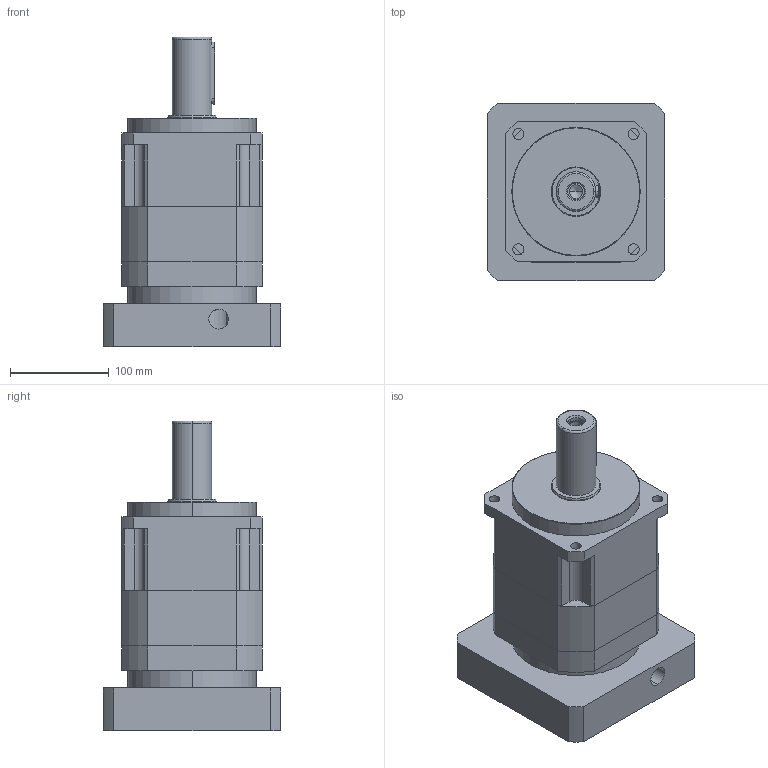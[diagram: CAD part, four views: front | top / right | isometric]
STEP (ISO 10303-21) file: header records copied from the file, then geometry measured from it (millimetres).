
FILE_DESCRIPTION (( 'STEP AP214' ), '1' );
FILE_NAME ('PGH142-L2-[ ]-P2 35J10-114.3-200-M12 bzsc40.STEP', '2024-05-30T00:31:09', ( '' ), ( '' ), 'SwSTEP 2.0', 'SolidWorks 2021', '' );
FILE_SCHEMA (( 'AUTOMOTIVE_DESIGN' ));
Length unit declared in the file: millimetre
Products named in the file (1): PGH142-L2-[ ]-P2 35J10-114.3-200-M12 bzsc40
Bounding box: 180 x 180 x 313.5 mm (x, y, z)
Volume: 3478613.1 mm3; surface area: 457429.9 mm2
Topology: 13 solids, 13 shells, 1405 faces, 3658 edges, 2383 vertices
Faces by surface type: plane 741, bspline 306, cylinder 270, cone 70, torus 18
Entity records: 58165 total; most frequent: CARTESIAN_POINT 24527, ORIENTED_EDGE 7252, DIRECTION 5883, EDGE_CURVE 3626, VERTEX_POINT 2383, LINE 2315, VECTOR 2315, AXIS2_PLACEMENT_3D 1784
